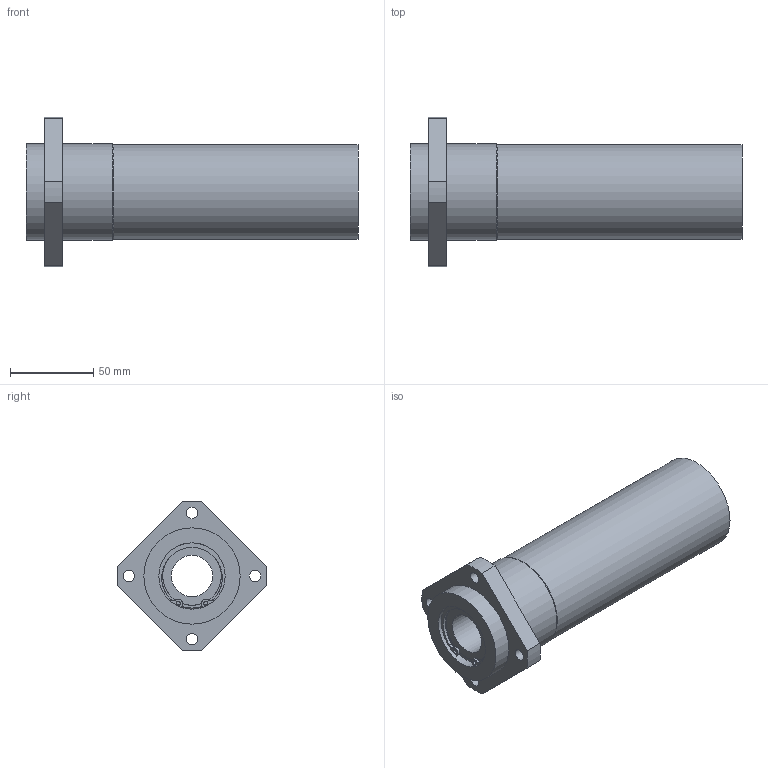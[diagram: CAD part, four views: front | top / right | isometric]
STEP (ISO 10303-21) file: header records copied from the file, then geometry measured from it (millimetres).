
FILE_DESCRIPTION((''),'2;1');
FILE_NAME('C:\Documents and Settings\土屋\My Documents\土屋移動用フォルダ\製品 (図面)\カタログ用3D\変換ファイル\OZAK_3D-CAD(STEP形式)\Part1.-Linear Bearings_ﾘﾆｱﾍﾞｱﾘﾝｸﾞ\09_Maintenance Free_ﾒｲﾝﾃﾅﾝｽﾌﾘｰ\L2017-09-22T14:01:53','2017-09-22T14:01:53',('y'),(''),'Autodesk Inventor 11','Autodesk Inventor 11','');
FILE_SCHEMA(('AUTOMOTIVE_DESIGN { 1 0 10303 214 1 1 1 1 }'));
Length unit declared in the file: millimetre
Products named in the file (1): LFWLB25AMF
Bounding box: 200 x 89.9 x 89.9 mm (x, y, z)
Volume: 434627.7 mm3; surface area: 69351.2 mm2
Topology: 1 solids, 7 shells, 97 faces, 245 edges, 152 vertices
Faces by surface type: bspline 34, cylinder 32, plane 28, torus 2, cone 1
Full cylindrical faces by diameter (mm): 2.5 x2, 7 x4, 25 x2, 35.3 x2, 38 x2, 40 x8, 57 x1, 58 x2
Entity records: 2957 total; most frequent: CARTESIAN_POINT 778, DIRECTION 468, ORIENTED_EDGE 384, AXIS2_PLACEMENT_3D 212, EDGE_CURVE 192, EDGE_LOOP 166, CIRCLE 148, VERTEX_POINT 136
